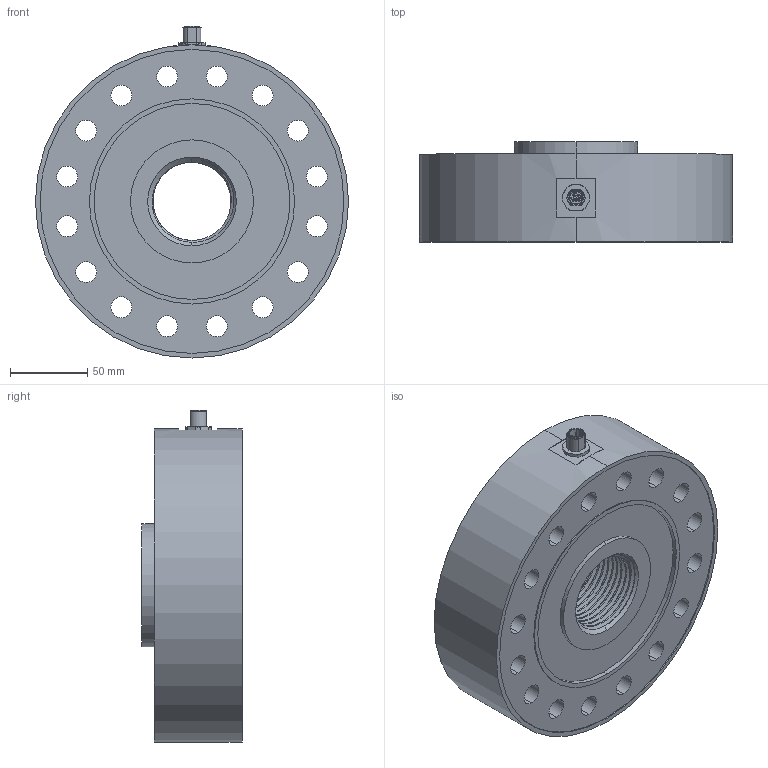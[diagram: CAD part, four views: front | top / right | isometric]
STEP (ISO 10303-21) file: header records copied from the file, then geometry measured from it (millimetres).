
FILE_DESCRIPTION (( 'STEP AP214' ), '1' );
FILE_NAME ('KFP3-500kN.STEP', '2022-11-11T12:06:39', ( '' ), ( '' ), 'SwSTEP 2.0', 'SolidWorks 2019', '' );
FILE_SCHEMA (( 'AUTOMOTIVE_DESIGN' ));
Length unit declared in the file: millimetre
Products named in the file (8): KFP3-500kN Grundkörper; KFP3-500kN; 86_0131_0002_00004_01; 86_0131_0002_00004_02; M12 Flanschstecker
Assembly tree (4 placements, depth 3):
  KFP3-500kN
    KFP3-500kN Grundkörper
    M12 Flanschstecker
      86_0131_0002_00004_01
      86_0131_0002_00004_02
  86_0131_0002_00004_01
  KFP3-500kN Grundkörper
  86_0131_0002_00004_02
Bounding box: 203 x 65 x 215.2 mm (x, y, z)
Volume: 1558489.8 mm3; surface area: 155651.7 mm2
Topology: 3 solids, 10 shells, 342 faces, 888 edges, 561 vertices
Faces by surface type: cylinder 163, plane 84, cone 60, bspline 19, sphere 8, torus 8
Entity records: 16425 total; most frequent: CARTESIAN_POINT 7844, ORIENTED_EDGE 1728, DIRECTION 1612, EDGE_CURVE 864, AXIS2_PLACEMENT_3D 623, VERTEX_POINT 553, EDGE_LOOP 405, VECTOR 366
